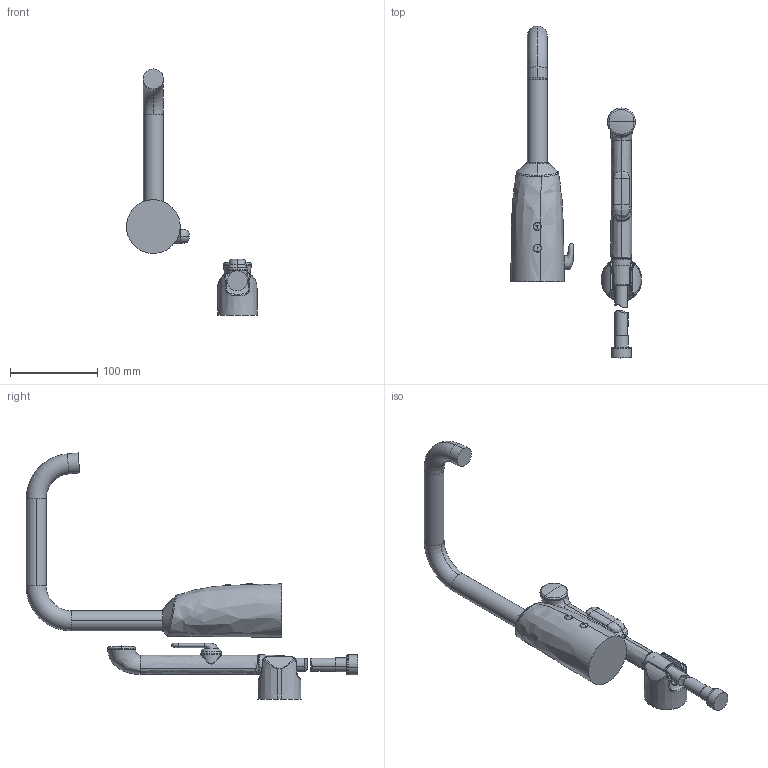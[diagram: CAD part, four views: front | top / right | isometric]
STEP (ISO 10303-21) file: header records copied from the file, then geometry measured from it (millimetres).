
FILE_DESCRIPTION (( 'STEP AP203' ), '1' );
FILE_NAME ('6333F+6337FT.STEP', '2018-07-11T11:34:21', ( '' ), ( '' ), 'SwSTEP 2.0', 'SolidWorks 2016', '' );
FILE_SCHEMA (( 'CONFIG_CONTROL_DESIGN' ));
Length unit declared in the file: millimetre
Products named in the file (1): 6333F+6337FT
Bounding box: 150.02 x 380.01 x 281.96 mm (x, y, z)
Volume: 673612.6 mm3; surface area: 93516.3 mm2
Topology: 11 solids, 11 shells, 176 faces, 385 edges, 226 vertices
Faces by surface type: bspline 66, cylinder 40, plane 29, torus 24, cone 13, sphere 4
Entity records: 16139 total; most frequent: CARTESIAN_POINT 12711, ORIENTED_EDGE 746, DIRECTION 596, EDGE_CURVE 373, AXIS2_PLACEMENT_3D 265, VERTEX_POINT 226, EDGE_LOOP 183, ADVANCED_FACE 176
